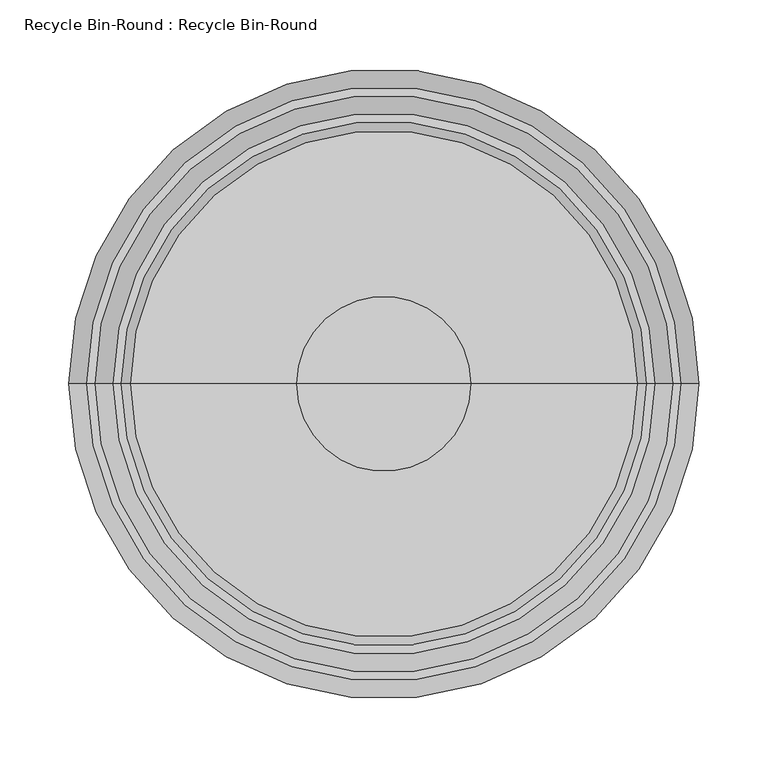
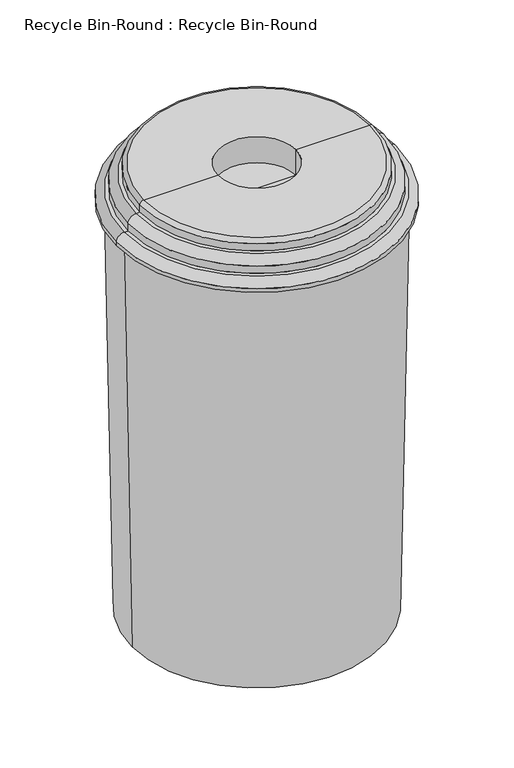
"""IFC4 building model written with IfcOpenShell, lengths in millimetres: proxy geometry, Recycle Bin-Round : Recycle Bin-Round."""

from ifc_helpers import new_model, si_unit, point, frame, origin, place, context, project, spatial, polyline, circle_curve, ellipse_curve, trimmed, source, transform, mapped, element, save
from ifc_brep_helpers import plane_surface, cylinder_surface, revolved_surface, advanced_brep


def recycle_bin_round_recycle_bin_round_0a3017ed(model_context):
    return source(origin(), model_context, "Body", "AdvancedBrep", [
        advanced_brep(
        [(-215.9, 0.0, 698.5), (215.9, 0.0, 698.5), (-203.2, 0.0, 0.0), (203.2, 0.0, 0.0)],
        [
            (0, 1, circle_curve(frame((0.0, 0.0, 698.5), z_axis=(0.0, 0.0, 1.0), x_axis=(1.0, 0.0, 0.0)), 215.9)),
            (1, 0, circle_curve(frame((0.0, 0.0, 698.5), z_axis=(0.0, 0.0, 1.0), x_axis=(-1.0, 0.0, 0.0)), 215.9)),
            (2, 3, circle_curve(frame((0.0, 0.0, 0.0), z_axis=(0.0, 0.0, -1.0), x_axis=(-1.0, 0.0, 0.0)), 203.2)),
            (3, 2, circle_curve(frame((0.0, 0.0, 0.0), z_axis=(0.0, 0.0, -1.0), x_axis=(1.0, 0.0, 0.0)), 203.2)),
            (2, 0),
            (1, 3),
        ],
        [
            plane_surface(frame((0.0, 0.0, 698.5), z_axis=(0.0, 0.0, 1.0), x_axis=(0.0, 1.0, 0.0))),
            plane_surface(frame((0.0, 0.0, 0.0), z_axis=(0.0, 0.0, -1.0), x_axis=(0.0, 1.0, 0.0))),
            revolved_surface(polyline([(-203.2, 0.0, 0.0), (-215.9, 0.0, 698.5)]), (0.0, 0.0, -11176.0), (0.0, 0.0, 1.0)),
            revolved_surface(polyline([(203.2, 0.0, 0.0), (215.9, 0.0, 698.5)]), (0.0, 0.0, -11176.0), (0.0, 0.0, 1.0)),
        ],
        [
            (0, [[1, 2]]),
            (1, [[3, 4]]),
            (2, [[5, -2, 6, -3]]),
            (3, [[-6, -1, -5, -4]]),
        ],
    ),
        advanced_brep(
        [(-228.6, 0.0, 704.85), (-228.6, 0.0, 698.5), (228.6, 0.0, 698.5), (228.6, 0.0, 704.85), (-215.9, 0.0, 717.55), (215.9, 0.0, 717.55), (-209.55, 0.0, 717.55), (209.55, 0.0, 717.55), (-209.55, 0.0, 730.25), (209.55, 0.0, 730.25), (-196.85, 0.0, 742.95), (196.85, 0.0, 742.95), (-190.5, 0.0, 742.95), (190.5, 0.0, 742.95), (-190.5, 0.0, 755.65), (190.5, 0.0, 755.65), (-184.15, 0.0, 762.0), (184.15, 0.0, 762.0), (-63.5, 0.0, 762.0), (63.5, 0.0, 762.0), (-63.5, 0.0, 717.55), (63.5, 0.0, 717.55), (0.0, 0.0, 717.55), (0.0, 0.0, 698.5)],
        [
            (0, 1),
            (1, 2, circle_curve(frame((0.0, 0.0, 698.5), z_axis=(0.0, 0.0, 1.0), x_axis=(1.0, 0.0, 0.0)), 228.6)),
            (2, 3),
            (3, 0, circle_curve(frame((0.0, 0.0, 704.85), z_axis=(0.0, 0.0, -1.0), x_axis=(1.0, 0.0, 0.0)), 228.6)),
            (2, 1, circle_curve(frame((0.0, 0.0, 698.5), z_axis=(0.0, 0.0, 1.0), x_axis=(1.0, 0.0, 0.0)), 228.6)),
            (0, 3, circle_curve(frame((0.0, 0.0, 704.85), z_axis=(0.0, 0.0, -1.0), x_axis=(1.0, 0.0, 0.0)), 228.6)),
            (4, 0, circle_curve(frame((-215.9, 0.0, 704.85), z_axis=(0.0, -1.0, 0.0), x_axis=(-1.0, 0.0, 0.0)), 12.7)),
            (3, 5, circle_curve(frame((215.9, 0.0, 704.85), z_axis=(0.0, -1.0, 0.0), x_axis=(1.0, 0.0, 0.0)), 12.7)),
            (5, 4, circle_curve(frame((0.0, 0.0, 717.55), z_axis=(0.0, 0.0, -1.0), x_axis=(1.0, 0.0, 0.0)), 215.9)),
            (4, 5, circle_curve(frame((0.0, 0.0, 717.55), z_axis=(0.0, 0.0, -1.0), x_axis=(1.0, 0.0, 0.0)), 215.9)),
            (6, 4),
            (5, 7),
            (7, 6, circle_curve(frame((0.0, 0.0, 717.55), z_axis=(0.0, 0.0, -1.0), x_axis=(1.0, 0.0, 0.0)), 209.55)),
            (6, 7, circle_curve(frame((0.0, 0.0, 717.55), z_axis=(0.0, 0.0, -1.0), x_axis=(1.0, 0.0, 0.0)), 209.55)),
            (8, 6),
            (7, 9),
            (9, 8, circle_curve(frame((0.0, 0.0, 730.25), z_axis=(0.0, 0.0, -1.0), x_axis=(1.0, 0.0, 0.0)), 209.55)),
            (8, 9, circle_curve(frame((0.0, 0.0, 730.25), z_axis=(0.0, 0.0, -1.0), x_axis=(1.0, 0.0, 0.0)), 209.55)),
            (10, 8, circle_curve(frame((-196.85, 0.0, 730.25), z_axis=(0.0, -1.0, 0.0), x_axis=(-1.0, 0.0, 0.0)), 12.7)),
            (9, 11, circle_curve(frame((196.85, 0.0, 730.25), z_axis=(0.0, -1.0, 0.0), x_axis=(1.0, 0.0, 0.0)), 12.7)),
            (11, 10, circle_curve(frame((0.0, 0.0, 742.95), z_axis=(0.0, 0.0, -1.0), x_axis=(1.0, 0.0, 0.0)), 196.85)),
            (10, 11, circle_curve(frame((0.0, 0.0, 742.95), z_axis=(0.0, 0.0, -1.0), x_axis=(1.0, 0.0, 0.0)), 196.85)),
            (12, 10),
            (11, 13),
            (13, 12, circle_curve(frame((0.0, 0.0, 742.95), z_axis=(0.0, 0.0, -1.0), x_axis=(1.0, 0.0, 0.0)), 190.5)),
            (12, 13, circle_curve(frame((0.0, 0.0, 742.95), z_axis=(0.0, 0.0, -1.0), x_axis=(1.0, 0.0, 0.0)), 190.5)),
            (14, 12),
            (13, 15),
            (15, 14, circle_curve(frame((0.0, 0.0, 755.65), z_axis=(0.0, 0.0, -1.0), x_axis=(1.0, 0.0, 0.0)), 190.5)),
            (14, 15, circle_curve(frame((0.0, 0.0, 755.65), z_axis=(0.0, 0.0, -1.0), x_axis=(1.0, 0.0, 0.0)), 190.5)),
            (16, 14, circle_curve(frame((-184.15, 0.0, 755.65), z_axis=(0.0, -1.0, 0.0), x_axis=(-1.0, 0.0, 0.0)), 6.35)),
            (15, 17, circle_curve(frame((184.15, 0.0, 755.65), z_axis=(0.0, -1.0, 0.0), x_axis=(1.0, 0.0, 0.0)), 6.35)),
            (17, 16, circle_curve(frame((0.0, 0.0, 762.0), z_axis=(0.0, 0.0, -1.0), x_axis=(1.0, 0.0, 0.0)), 184.15)),
            (16, 17, circle_curve(frame((0.0, 0.0, 762.0), z_axis=(0.0, 0.0, -1.0), x_axis=(1.0, 0.0, 0.0)), 184.15)),
            (18, 16),
            (17, 19),
            (19, 18, circle_curve(frame((0.0, 0.0, 762.0), z_axis=(0.0, 0.0, -1.0), x_axis=(1.0, 0.0, 0.0)), 63.5)),
            (18, 19, circle_curve(frame((0.0, 0.0, 762.0), z_axis=(0.0, 0.0, -1.0), x_axis=(1.0, 0.0, 0.0)), 63.5)),
            (20, 18),
            (19, 21),
            (21, 20, circle_curve(frame((0.0, 0.0, 717.55), z_axis=(0.0, 0.0, -1.0), x_axis=(1.0, 0.0, 0.0)), 63.5)),
            (20, 21, circle_curve(frame((0.0, 0.0, 717.55), z_axis=(0.0, 0.0, -1.0), x_axis=(1.0, 0.0, 0.0)), 63.5)),
            (22, 20),
            (21, 22),
            (1, 23),
            (23, 2),
        ],
        [
            cylinder_surface(frame((0.0, 0.0, 698.5), z_axis=(0.0, 0.0, 1.0), x_axis=(1.0, 0.0, 0.0)), 228.6),
            revolved_surface(trimmed(ellipse_curve(frame((215.9, 0.0, 704.85), z_axis=(0.0, -1.0, 0.0), x_axis=(1.0, 0.0, 0.0)), 12.7, 12.7), [point((228.6, 0.0, 704.85))], [point((215.9, 0.0, 717.55))], True, "CARTESIAN"), (0.0, 0.0, 698.5), (0.0, 0.0, 1.0)),
            plane_surface(frame((0.0, 0.0, 717.55), z_axis=(0.0, 0.0, 1.0), x_axis=(1.0, 0.0, 0.0))),
            cylinder_surface(frame((0.0, 0.0, 698.5), z_axis=(0.0, 0.0, 1.0), x_axis=(1.0, 0.0, 0.0)), 209.55),
            revolved_surface(trimmed(ellipse_curve(frame((196.85, 0.0, 730.25), z_axis=(0.0, -1.0, 0.0), x_axis=(1.0, 0.0, 0.0)), 12.7, 12.7), [point((209.55, 0.0, 730.25))], [point((196.85, 0.0, 742.95))], True, "CARTESIAN"), (0.0, 0.0, 698.5), (0.0, 0.0, 1.0)),
            plane_surface(frame((0.0, 0.0, 742.95), z_axis=(0.0, 0.0, 1.0), x_axis=(1.0, 0.0, 0.0))),
            cylinder_surface(frame((0.0, 0.0, 698.5), z_axis=(0.0, 0.0, 1.0), x_axis=(1.0, 0.0, 0.0)), 190.5),
            revolved_surface(trimmed(ellipse_curve(frame((184.15, 0.0, 755.65), z_axis=(0.0, -1.0, 0.0), x_axis=(1.0, 0.0, 0.0)), 6.35, 6.35), [point((190.5, 0.0, 755.65))], [point((184.15, 0.0, 762.0))], True, "CARTESIAN"), (0.0, 0.0, 698.5), (0.0, 0.0, 1.0)),
            plane_surface(frame((0.0, 0.0, 762.0), z_axis=(0.0, 0.0, 1.0), x_axis=(1.0, 0.0, 0.0))),
            revolved_surface(polyline([(63.5, 0.0, 762.0), (63.5, 0.0, 717.55)]), (0.0, 0.0, 698.5), (0.0, 0.0, 1.0)),
            plane_surface(frame((0.0, 0.0, 698.5), z_axis=(0.0, 0.0, -1.0), x_axis=(1.0, 0.0, 0.0))),
        ],
        [
            (0, [[1, 2, 3, 4]]),
            (0, [[-3, 5, -1, 6]]),
            (1, [[7, -4, 8, 9]]),
            (1, [[-8, -6, -7, 10]]),
            (2, [[11, -9, 12, 13]]),
            (2, [[-12, -10, -11, 14]]),
            (3, [[15, -13, 16, 17]]),
            (3, [[-16, -14, -15, 18]]),
            (4, [[19, -17, 20, 21]]),
            (4, [[-20, -18, -19, 22]]),
            (5, [[23, -21, 24, 25]]),
            (5, [[-24, -22, -23, 26]]),
            (6, [[27, -25, 28, 29]]),
            (6, [[-28, -26, -27, 30]]),
            (7, [[31, -29, 32, 33]]),
            (7, [[-32, -30, -31, 34]]),
            (8, [[35, -33, 36, 37]]),
            (8, [[-36, -34, -35, 38]]),
            (9, [[39, -37, 40, 41]]),
            (9, [[-40, -38, -39, 42]]),
            (2, [[43, -41, 44]]),
            (2, [[-44, -42, -43]]),
            (10, [[45, 46, -2]]),
            (10, [[-46, -45, -5]]),
        ],
    ),
    ])


if __name__ == "__main__":
    model = new_model("IFC4")
    model_context = context("Model", 3, world=origin())
    ifc_project = project(units=[si_unit("LENGTHUNIT", "METRE", prefix="MILLI")], contexts=[model_context])
    site = spatial("IfcSite", under=ifc_project)
    building = spatial("IfcBuilding", under=site)
    placement = place(None, origin())
    recycle_bin_round_recycle_bin_round_shape = recycle_bin_round_recycle_bin_round_0a3017ed(model_context)
    element("IfcBuildingElementProxy", 1, Name="Recycle Bin-Round : Recycle Bin-Round", ObjectType="Recycle Bin-Round : Recycle Bin-Round", at=placement, inside=building, context=model_context, shape_type="MappedRepresentation", body=[
        mapped(recycle_bin_round_recycle_bin_round_shape, transform((0.0, 0.0, 0.0), x_axis=(1.0, 0.0, 0.0), y_axis=(0.0, 1.0, 0.0), z_axis=(0.0, 0.0, 1.0))),
    ])
    save(model, "model.ifc")
